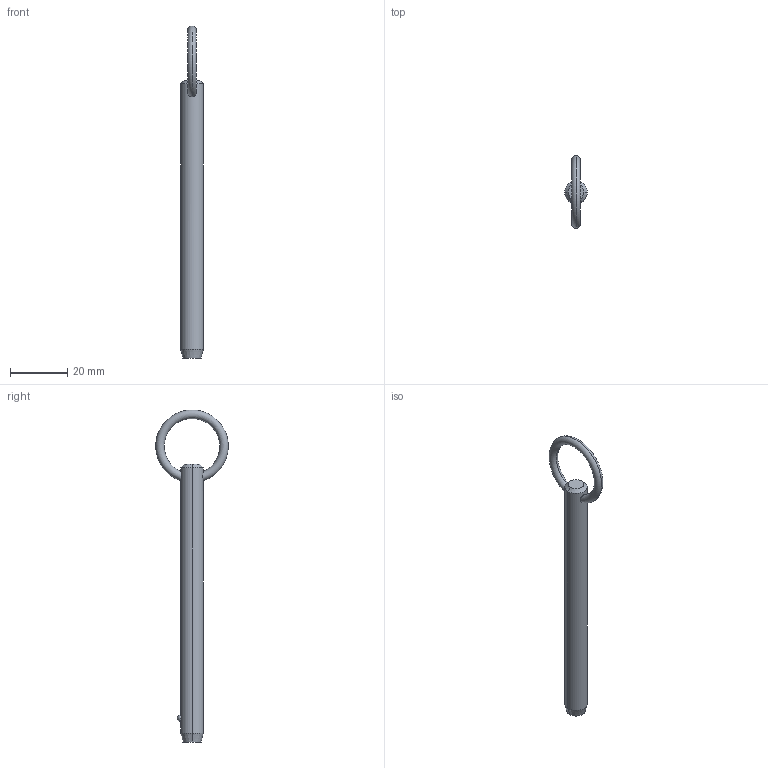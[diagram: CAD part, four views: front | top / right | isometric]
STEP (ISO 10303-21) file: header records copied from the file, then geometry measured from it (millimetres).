
FILE_DESCRIPTION (( 'STEP AP203' ), '1' );
FILE_NAME ('P1250.031-320.step', '2019-07-29T19:53:26', ( '' ), ( '' ), 'SwSTEP 2.0', 'SolidWorks 2017', '' );
FILE_SCHEMA (( 'CONFIG_CONTROL_DESIGN' ));
Length unit declared in the file: millimetre
Products named in the file (1): P1250.031-320
Bounding box: 7.93 x 25.36 x 116.21 mm (x, y, z)
Volume: 5199.7 mm3; surface area: 3056.1 mm2
Topology: 1 solids, 1 shells, 12 faces, 28 edges, 17 vertices
Faces by surface type: cone 4, torus 2, sphere 2, cylinder 2, plane 2
Entity records: 509 total; most frequent: CARTESIAN_POINT 176, DIRECTION 56, ORIENTED_EDGE 48, AXIS2_PLACEMENT_3D 25, EDGE_CURVE 24, EDGE_LOOP 15, VERTEX_POINT 15, CIRCLE 12
